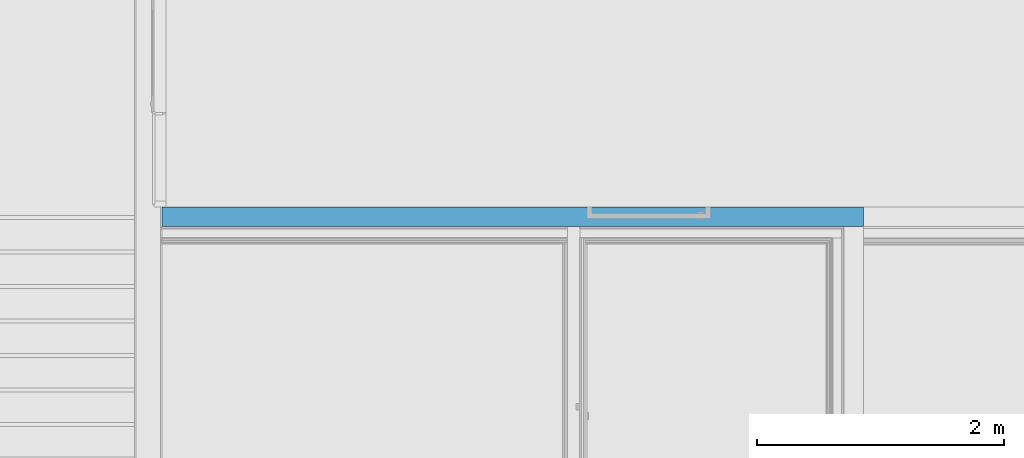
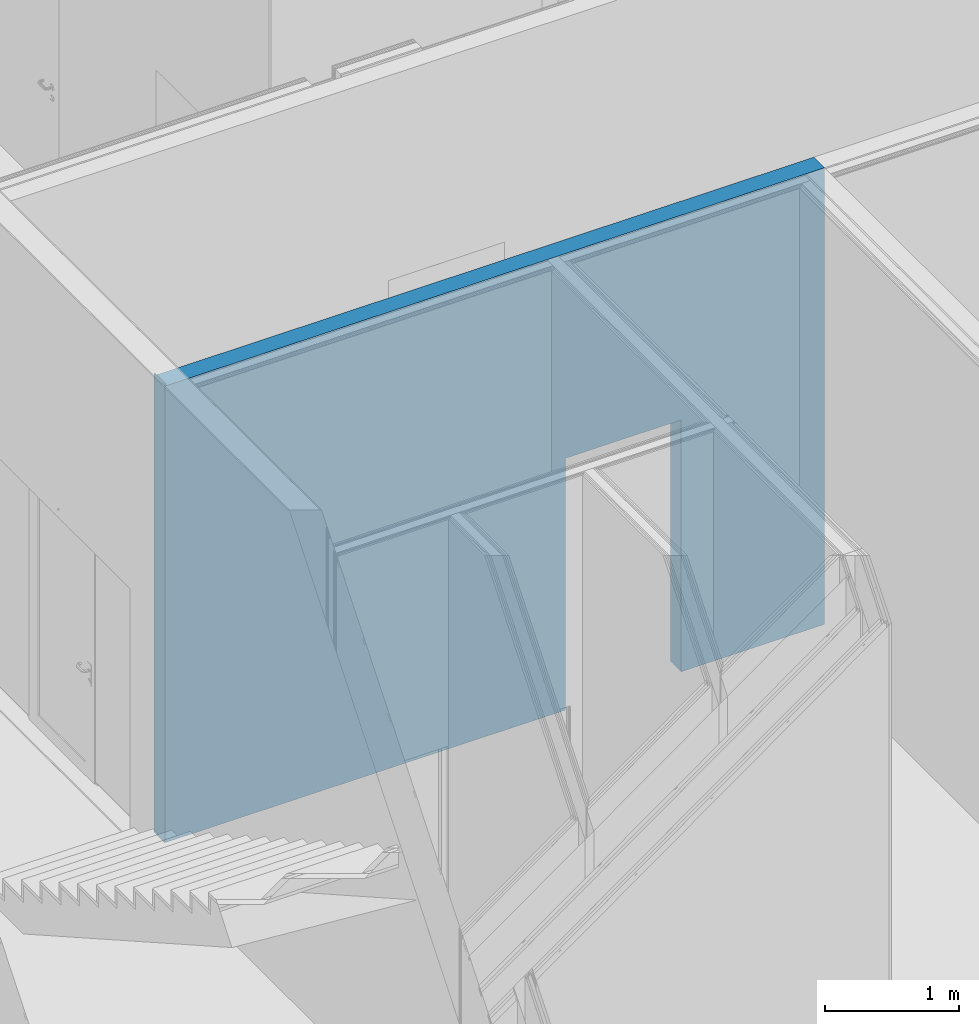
# One storey, part 154 of 260: 1 building element part, 1 opening, 1 element without a shape of its own.
"""IFC2X3 building model written with IfcOpenShell, lengths in millimetres."""

from ifc_helpers import new_model, entity, si_unit, converted_unit, derived_unit, money_unit, direction, frame, origin_with_axes, place, context, subcontext, project, spatial, faceted_brep, material, type_object, element, aggregate, save


model = new_model("IFC2X3")

# Units and contexts
model_context = context("Model", 3, precision=0.01, world=origin_with_axes(), true_north=direction((0.0, 1.0)))
body_context = subcontext(model_context, "Body", "Model", "MODEL_VIEW")
ifc_project = project(units=[si_unit("LENGTHUNIT", "METRE", prefix="MILLI"), si_unit("AREAUNIT", "SQUARE_METRE"), si_unit("VOLUMEUNIT", "CUBIC_METRE"), converted_unit("PLANEANGLEUNIT", "DEGREE", entity("IfcPlaneAngleMeasure", 0.0174532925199), si_unit("PLANEANGLEUNIT", "RADIAN"), dimensions=[0, 0, 0, 0, 0, 0, 0]), money_unit("EUR"), converted_unit("TIMEUNIT", "Year", entity("IfcTimeMeasure", 31556926.0), si_unit("TIMEUNIT", "SECOND"), dimensions=[0, 0, 1, 0, 0, 0, 0]), si_unit("MASSUNIT", "GRAM", prefix="KILO"), si_unit("THERMODYNAMICTEMPERATUREUNIT", "DEGREE_CELSIUS"), si_unit("LUMINOUSINTENSITYUNIT", "LUMEN"), si_unit("ENERGYUNIT", "JOULE", prefix="MEGA"), derived_unit("THERMALCONDUCTANCEUNIT", [(si_unit("POWERUNIT", "WATT"), 1), (si_unit("LENGTHUNIT", "METRE"), -1), (si_unit("THERMODYNAMICTEMPERATUREUNIT", "KELVIN"), -1)]), derived_unit("SPECIFICHEATCAPACITYUNIT", [(si_unit("ENERGYUNIT", "JOULE"), 1), (si_unit("MASSUNIT", "GRAM", prefix="KILO"), -1), (si_unit("THERMODYNAMICTEMPERATUREUNIT", "KELVIN"), -1)]), derived_unit("MASSDENSITYUNIT", [(si_unit("MASSUNIT", "GRAM", prefix="KILO"), 1), (si_unit("VOLUMEUNIT", "CUBIC_METRE"), -1)])], contexts=[model_context])

# Site, building, storey
site_placement = place(None, origin_with_axes())
site = spatial("IfcSite", under=ifc_project, at=site_placement, Name="Kolde pst 67a", CompositionType="ELEMENT")
building_placement = place(site_placement, origin_with_axes())
building = spatial("IfcBuilding", under=site, at=building_placement, Name="Riigigümnaasium", CompositionType="ELEMENT")
storey_placement = place(building_placement, origin_with_axes())
storey = spatial("IfcBuildingStorey", under=building, at=storey_placement, Name="1. korrus", CompositionType="ELEMENT", Elevation=0.0)

# Wall, opening, building element part
wall_type = type_object("IfcWallType", Name="SS-CLT-16/1_vill75+krohv 52 dB 300", PredefinedType="NOTDEFINED")
wall_placement = place(storey_placement, frame((3239.9403958, 56839.9979478, 0.0), z_axis=(0.0, 0.0, 1.0), x_axis=(1.0, 0.0, 0.0)))
wall = element("IfcWall", 1, at=wall_placement, inside=storey, type_object=wall_type, Name="Sisesein")
opening_placement = place(wall_placement, frame((3960.05833606, 0.0, 0.0), z_axis=(0.0, 0.0, 1.0), x_axis=(1.0, 0.0, 0.0)))
element("IfcOpeningElement", 2, at=opening_placement, cuts=wall, Name="Siseuks", context=body_context, shape_type="Brep", body=[
    faceted_brep([(-500.0, -300.0, 0.0), (-500.0, -300.0, 2300.0), (-500.0, 600.0, 2300.0), (-500.0, 600.0, 0.0), (500.0, -300.0, 0.0), (500.0, -300.0, 2300.0), (500.0, 600.0, 2300.0), (500.0, 600.0, 0.0)], [[[0, 1, 2, 3]], [[0, 4, 5, 1]], [[1, 5, 6, 2]], [[3, 2, 6, 7]], [[4, 0, 3, 7]], [[5, 4, 7, 6]]]),
])
ifc_material = material(Name="_KANDETARIND - CLT ristkihtliimpuit vastavalt EK osale, CLT paigaldusvuugid teibitakse ROTHOBLAAS teibiga")
building_element_part_placement = place(wall_placement, origin_with_axes())
building_element_part = element("IfcBuildingElementPart", 3, at=building_element_part_placement, material=ifc_material, Name="_KANDETARIND - CLT ristkihtliimpuit vastavalt EK osale, CLT paigaldusvuugid teibitakse ROTHOBLAAS teibiga", context=body_context, shape_type="Brep", body=[
    faceted_brep([(3460.05833606, 0.0, 2300.0), (3460.05833606, 0.0, 0.0), (0.0, 0.0, 0.0), (0.0, 0.0, 4190.0), (10.0000620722, 0.0, 4190.0), (10.0000265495, 0.0, 4170.0), (5700.05566853, 0.0, 4170.0), (5700.05566853, 0.0, 0.0), (4460.05833606, 0.0, 0.0), (4460.05833606, 0.0, 2300.0), (3460.05833606, -160.0, 2300.0), (3460.05833606, -160.0, 0.0), (0.0, -160.0, 0.0), (0.0, -160.0, 4190.0), (10.0000613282, -160.0, 4190.0), (10.0000264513, -160.0, 4170.0), (5700.05566853, -160.0, 4170.0), (5700.05566853, -160.0, 0.0), (4460.05833606, -160.0, 0.0), (4460.05833606, -160.0, 2300.0)], [[[0, 1, 2, 3, 4, 5, 6, 7, 8, 9]], [[1, 0, 10, 11]], [[1, 11, 12, 2]], [[2, 12, 13, 3]], [[4, 3, 13, 14]], [[4, 14, 15, 5]], [[15, 16, 6, 5]], [[16, 17, 7, 6]], [[18, 8, 7, 17]], [[9, 8, 18, 19]], [[0, 9, 19, 10]], [[19, 18, 17, 16, 15, 14, 13, 12, 11, 10]]]),
])
aggregate(wall, [building_element_part])

save(model, "model.ifc")
